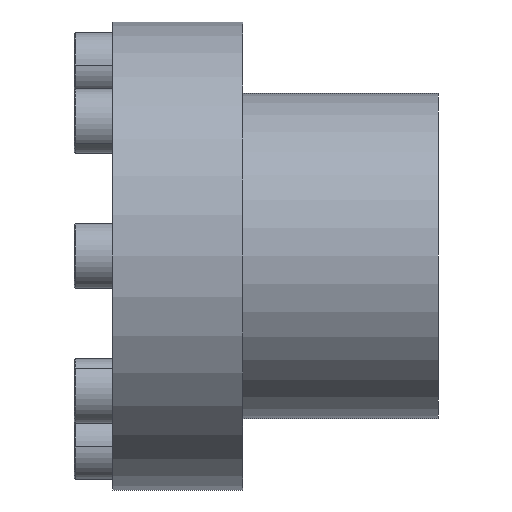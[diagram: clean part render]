
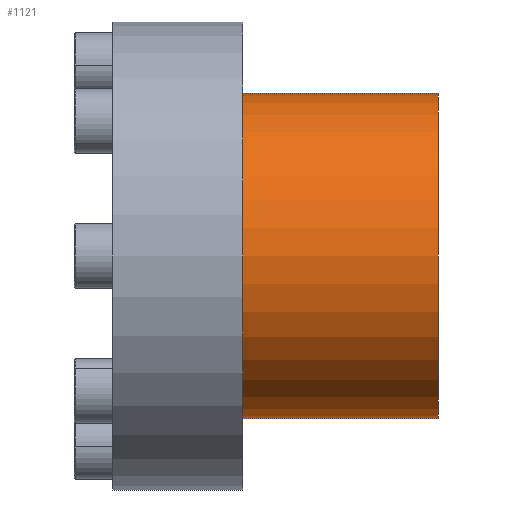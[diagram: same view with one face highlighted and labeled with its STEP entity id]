
A CAD part, front view. The second image highlights one B-rep face of the part: STEP entity #1121.
In plain terms, the highlighted cylindrical face has radius 25 mm (diameter 50 mm), a partial arc.
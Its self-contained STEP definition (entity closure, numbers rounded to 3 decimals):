
#133 = ORIENTED_EDGE ( 'NONE', *, *, #3741, .T. ) ;
#141 = ORIENTED_EDGE ( 'NONE', *, *, #1119, .F. ) ;
#146 = EDGE_CURVE ( 'NONE', #3700, #3699, #1917, .T. ) ;
#1116 = ORIENTED_EDGE ( 'NONE', *, *, #146, .T. ) ;
#1119 = EDGE_CURVE ( 'NONE', #3736, #3739, #3411, .T. ) ;
#1120 = EDGE_LOOP ( 'NONE', ( #1226, #1116, #133, #141 ) ) ;
#1121 = ADVANCED_FACE ( 'NONE', ( #3406 ), #3405, .T. ) ;
#1226 = ORIENTED_EDGE ( 'NONE', *, *, #3735, .F. ) ;
#1900 = CARTESIAN_POINT ( 'NONE',  ( 50., 0., 0. ) ) ;
#1905 = DIRECTION ( 'NONE',  ( 0., 0., 1. ) ) ;
#1906 = DIRECTION ( 'NONE',  ( -1., 0., 0. ) ) ;
#1907 = AXIS2_PLACEMENT_3D ( 'NONE', #1900, #1906, #1905 ) ;
#1917 = CIRCLE ( 'NONE', #1907, 25. ) ;
#3400 = DIRECTION ( 'NONE',  ( 0., 0., 1. ) ) ;
#3401 = DIRECTION ( 'NONE',  ( -1., 0., 0. ) ) ;
#3402 = AXIS2_PLACEMENT_3D ( 'NONE', #3404, #3401, #3400 ) ;
#3404 = CARTESIAN_POINT ( 'NONE',  ( 0., 0., 0. ) ) ;
#3405 = CYLINDRICAL_SURFACE ( 'NONE', #3402, 25. ) ;
#3406 = FACE_OUTER_BOUND ( 'NONE', #1120, .T. ) ;
#3407 = DIRECTION ( 'NONE',  ( 0., 0., 1. ) ) ;
#3408 = DIRECTION ( 'NONE',  ( -1., 0., 0. ) ) ;
#3409 = CARTESIAN_POINT ( 'NONE',  ( 20., 0., 0. ) ) ;
#3410 = AXIS2_PLACEMENT_3D ( 'NONE', #3409, #3408, #3407 ) ;
#3411 = CIRCLE ( 'NONE', #3410, 25. ) ;
#3699 = VERTEX_POINT ( 'NONE', #4858 ) ;
#3700 = VERTEX_POINT ( 'NONE', #4857 ) ;
#3735 = EDGE_CURVE ( 'NONE', #3700, #3736, #4787, .T. ) ;
#3736 = VERTEX_POINT ( 'NONE', #4783 ) ;
#3739 = VERTEX_POINT ( 'NONE', #4777 ) ;
#3741 = EDGE_CURVE ( 'NONE', #3699, #3739, #4776, .T. ) ;
#4773 = DIRECTION ( 'NONE',  ( -1., 0., 0. ) ) ;
#4774 = VECTOR ( 'NONE', #4773, 1000. ) ;
#4775 = CARTESIAN_POINT ( 'NONE',  ( 0., 0., 25. ) ) ;
#4776 = LINE ( 'NONE', #4775, #4774 ) ;
#4777 = CARTESIAN_POINT ( 'NONE',  ( 20., 0., 25. ) ) ;
#4783 = CARTESIAN_POINT ( 'NONE',  ( 20., 0., -25. ) ) ;
#4784 = DIRECTION ( 'NONE',  ( -1., 0., 0. ) ) ;
#4785 = VECTOR ( 'NONE', #4784, 1000. ) ;
#4786 = CARTESIAN_POINT ( 'NONE',  ( 0., 0., -25. ) ) ;
#4787 = LINE ( 'NONE', #4786, #4785 ) ;
#4857 = CARTESIAN_POINT ( 'NONE',  ( 50., 0., -25. ) ) ;
#4858 = CARTESIAN_POINT ( 'NONE',  ( 50., 0., 25. ) ) ;
